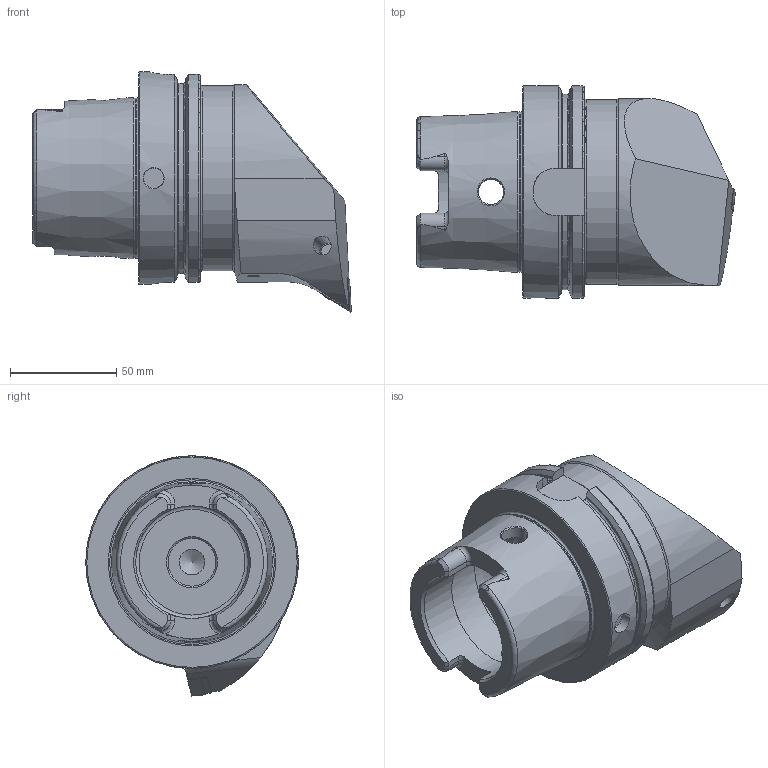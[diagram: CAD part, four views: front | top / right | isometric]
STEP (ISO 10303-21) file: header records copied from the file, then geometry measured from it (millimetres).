
FILE_DESCRIPTION (( 'STEP AP214' ), '1' );
FILE_NAME ('HA0.PDF.RUA.100-HP.STEP', '2020-10-13T12:57:34', ( '' ), ( '' ), 'SwSTEP 2.0', 'SolidWorks 2017', '' );
FILE_SCHEMA (( 'AUTOMOTIVE_DESIGN' ));
Length unit declared in the file: millimetre
Products named in the file (14): HA0-PDF.RUA.100-HP_A_Fertigbearbeitung; WCD-ER4.101.017_A; WDF-ER3.101.000_A; CHP-ER1.008.014_A; WCD-ER1.101.000; CHP-ER1.015.006_A; DNMG150604; KVT_MB_600_060; DIN 3771 - 13x1; ISO 8752 2x8; WDF-ER2.101.003_A; CHP-ER1.015.006; DIN 7991 - M5x15; HA0.PDF.RUA.100-HP
Assembly tree (13 placements, depth 3):
  HA0.PDF.RUA.100-HP
    HA0-PDF.RUA.100-HP_A_Fertigbearbeitung
    KVT_MB_600_060
    DNMG150604
    WDF-ER2.101.003_A
    WCD-ER4.101.017_A
    WDF-ER3.101.000_A
    CHP-ER1.008.014_A
    CHP-ER1.015.006
      CHP-ER1.015.006_A
      DIN 3771 - 13x1
      DIN 7991 - M5x15
    ISO 8752 2x8
    WCD-ER1.101.000
Bounding box: 149.9 x 100 x 113 mm (x, y, z)
Volume: 564520.7 mm3; surface area: 75139.2 mm2
Topology: 13 solids, 13 shells, 381 faces, 940 edges, 582 vertices
Faces by surface type: plane 155, cylinder 91, cone 84, torus 36, bspline 14, sphere 1
Full cylindrical faces by diameter (mm): 2 x1, 2.5 x1, 3 x1, 3.55 x1, 4.2 x2, 4.7 x1, 5 x5, 5.16 x1, 5.2 x1, 5.5 x1, 6 x3, 6.4 x2, 7 x2, 7.9 x2, 8 x2, 8.4 x1, 10 x2, 12 x3, 13.4 x1, 15 x4, 22.5 x1, 26 x1, 53 x2, 63 x1, 75.265 x1, 87 x1, 100 x1
Entity records: 14287 total; most frequent: CARTESIAN_POINT 4600, DIRECTION 1647, ORIENTED_EDGE 1574, EDGE_CURVE 787, AXIS2_PLACEMENT_3D 664, VERTEX_POINT 549, EDGE_LOOP 520, FACE_OUTER_BOUND 441
